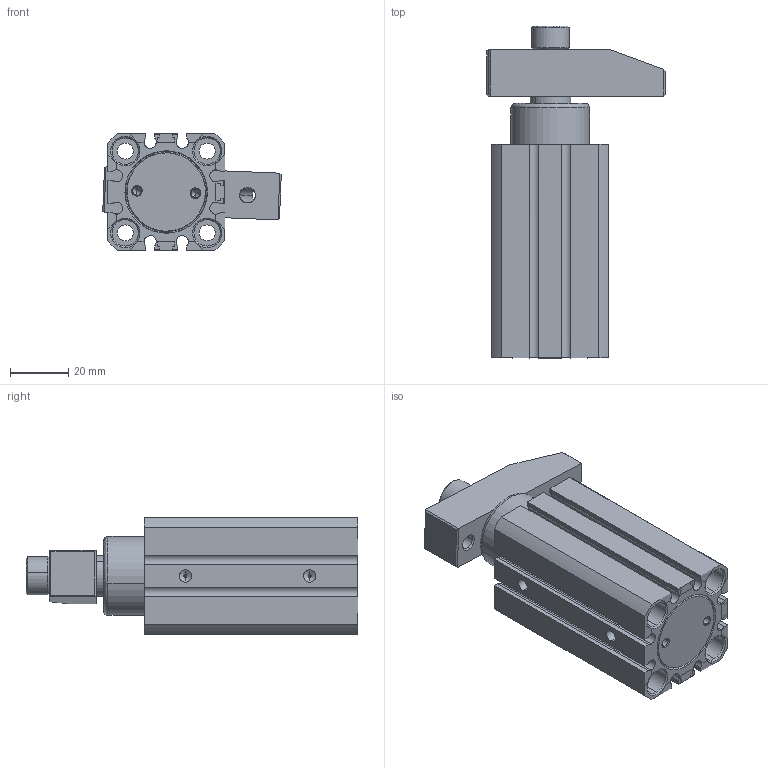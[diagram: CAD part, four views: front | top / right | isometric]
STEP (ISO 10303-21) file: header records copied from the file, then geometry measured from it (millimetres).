
FILE_DESCRIPTION(('FreeCAD Model'),'2;1');
FILE_NAME('Open CASCADE Shape Model','2021-08-17T16:10:29',('Author'),( ''),'Open CASCADE STEP processor 7.4','FreeCAD','Unknown');
FILE_SCHEMA(('AUTOMOTIVE_DESIGN { 1 0 10303 214 1 1 1 1 }'));
Length unit declared in the file: millimetre
Products named in the file (10): PSP-S-25; SOLID001; SOLID002; SOLID003; SOLID004; SOLID005; SOLID006; SOLID007; SOLID008; SOLID009
Assembly tree (9 placements, depth 2):
  PSP-S-25
    SOLID001
    SOLID002
    SOLID003
    SOLID004
    SOLID005
    SOLID006
    SOLID007
    SOLID008
    SOLID009
Bounding box: 61.06 x 113.5 x 40 mm (x, y, z)
Volume: 103185.8 mm3; surface area: 63203.2 mm2
Topology: 9 solids, 10 shells, 691 faces, 1591 edges, 955 vertices
Faces by surface type: cylinder 227, plane 182, cone 164, bspline 118
Entity records: 69826 total; most frequent: CARTESIAN_POINT 38637, DIRECTION 5650, ORIENTED_EDGE 3162, PCURVE 3162, DEFINITIONAL_REPRESENTATION 3162, LINE 3021, VECTOR 3021, EDGE_CURVE 1581
